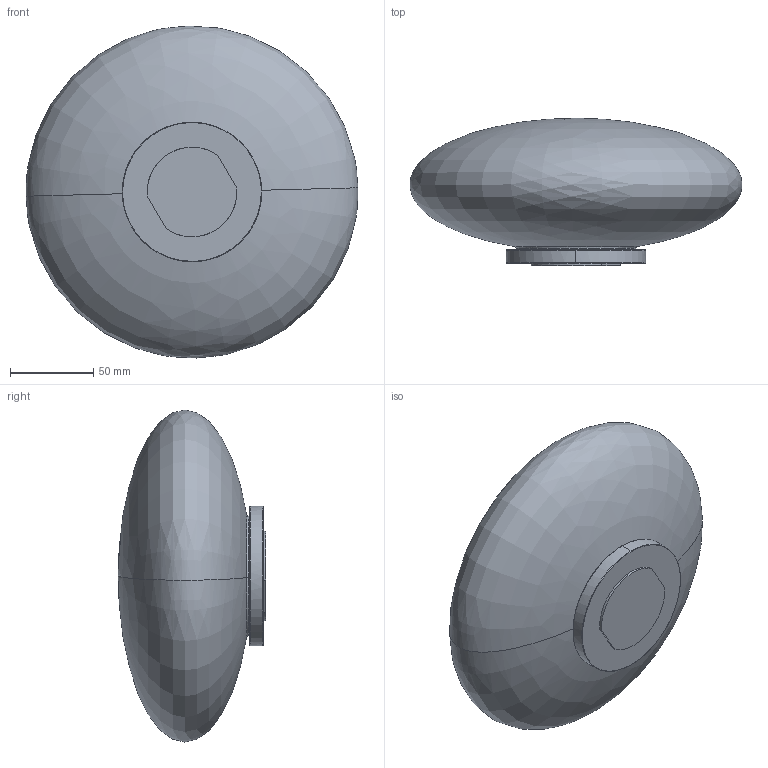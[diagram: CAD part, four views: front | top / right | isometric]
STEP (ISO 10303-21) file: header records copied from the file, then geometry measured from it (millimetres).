
FILE_DESCRIPTION(/* description */ (''),/* implementation_level */ '2;1');
FILE_NAME(/* name */ 'SEM.000231',/* time_stamp */ '2024-02-13T17:30:36+01:00',/* author */ (''),/* organization */ (''),/* preprocessor_version */ 'ST-DEVELOPER v16.5',/* originating_system */ 'Rhino 7.36',/* authorisation */ '');
FILE_SCHEMA (('CONFIG_CONTROL_DESIGN'));
Length unit declared in the file: millimetre
Products named in the file (3): Document; GOM.000017; VET.000082
Assembly tree (2 placements, depth 2):
  Document
    GOM.000017
    VET.000082
Bounding box: 199.9 x 88.67 x 199.94 mm (x, y, z)
Volume: 324528 mm3; surface area: 173719.7 mm2
Topology: 5 solids, 5 shells, 49 faces, 109 edges, 69 vertices
Faces by surface type: cylinder 24, plane 13, bspline 12
Entity records: 2547 total; most frequent: CARTESIAN_POINT 1537, ORIENTED_EDGE 210, EDGE_CURVE 105, VERTEX_POINT 69, EDGE_LOOP 58, B_SPLINE_CURVE_WITH_KNOTS 54, DIRECTION 53, ADVANCED_FACE 49
